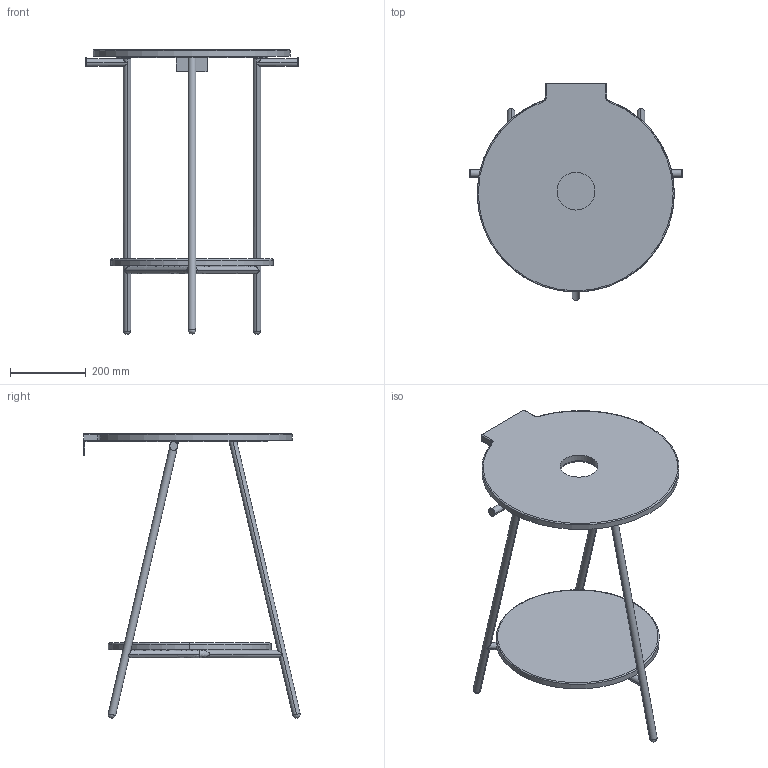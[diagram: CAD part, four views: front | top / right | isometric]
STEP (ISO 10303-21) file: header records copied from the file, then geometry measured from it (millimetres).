
FILE_DESCRIPTION(/* description */ (''),/* implementation_level */ '2;1');
FILE_NAME(/* name */ 'SDR STRUTTURA TRIO CON PIANO IN CEREAMICA',/* time_stamp */ '2026-09-28T09:24:26+02:00',/* author */ (''),/* organization */ (''),/* preprocessor_version */ 'ST-DEVELOPER v19.2',/* originating_system */ 'Rhino 8.35',/* authorisation */ '');
FILE_SCHEMA (('CONFIG_CONTROL_DESIGN'));
Length unit declared in the file: millimetre
Products named in the file (1): Document
Bounding box: 560.93 x 571.11 x 751.56 mm (x, y, z)
Volume: 6808347.3 mm3; surface area: 1243869.6 mm2
Topology: 8 solids, 12 shells, 91 faces, 231 edges, 137 vertices
Faces by surface type: cylinder 38, plane 36, bspline 17
Entity records: 5650 total; most frequent: CARTESIAN_POINT 3823, ORIENTED_EDGE 410, EDGE_CURVE 217, DIRECTION 214, AXIS2_PLACEMENT_3D 144, VERTEX_POINT 137, B_SPLINE_CURVE_WITH_KNOTS 104, EDGE_LOOP 95
